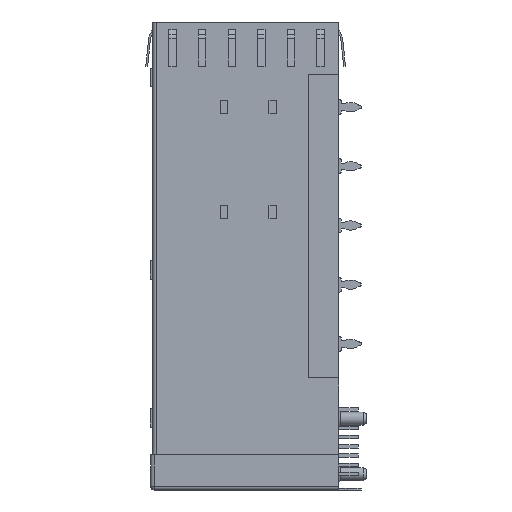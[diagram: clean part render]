
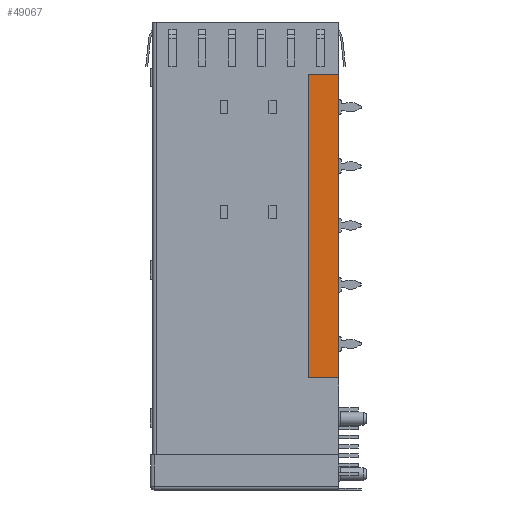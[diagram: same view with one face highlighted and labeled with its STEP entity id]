
A CAD part, left-side view. The second image highlights one B-rep face of the part: STEP entity #49067.
In plain terms, the highlighted planar face has unit normal (-1, 0, 0).
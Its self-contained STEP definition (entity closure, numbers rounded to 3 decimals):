
#983 = EDGE_LOOP ( 'NONE', ( #54840, #55551, #5235, #42316 ) ) ;
#3096 = DIRECTION ( 'NONE',  ( 0., 1., 0. ) ) ;
#5235 = ORIENTED_EDGE ( 'NONE', *, *, #46285, .F. ) ;
#9142 = VECTOR ( 'NONE', #3096, 1000. ) ;
#11380 = CARTESIAN_POINT ( 'NONE',  ( -21.75, 4.1, -7.1 ) ) ;
#17108 = VERTEX_POINT ( 'NONE', #52843 ) ;
#19954 = PLANE ( 'NONE',  #25020 ) ;
#20383 = CARTESIAN_POINT ( 'NONE',  ( -21.75, 0., -48.1 ) ) ;
#22428 = LINE ( 'NONE', #11380, #55103 ) ;
#22607 = CARTESIAN_POINT ( 'NONE',  ( -21.75, 0., -7.1 ) ) ;
#23704 = EDGE_CURVE ( 'NONE', #49821, #46486, #30894, .T. ) ;
#24415 = DIRECTION ( 'NONE',  ( 0., 0., 1. ) ) ;
#25020 = AXIS2_PLACEMENT_3D ( 'NONE', #49824, #54085, #28574 ) ;
#25494 = CARTESIAN_POINT ( 'NONE',  ( -21.75, 4.1, -7.1 ) ) ;
#28344 = CARTESIAN_POINT ( 'NONE',  ( -21.75, 4.1, -48.1 ) ) ;
#28574 = DIRECTION ( 'NONE',  ( 0., 0., 1. ) ) ;
#28967 = DIRECTION ( 'NONE',  ( 0., -1., 0. ) ) ;
#29287 = VECTOR ( 'NONE', #48182, 1000. ) ;
#30894 = LINE ( 'NONE', #54641, #50846 ) ;
#32096 = LINE ( 'NONE', #20383, #9142 ) ;
#34821 = CARTESIAN_POINT ( 'NONE',  ( -21.75, 0., -7.1 ) ) ;
#42316 = ORIENTED_EDGE ( 'NONE', *, *, #47183, .F. ) ;
#46285 = EDGE_CURVE ( 'NONE', #17108, #47882, #32096, .T. ) ;
#46486 = VERTEX_POINT ( 'NONE', #34821 ) ;
#47183 = EDGE_CURVE ( 'NONE', #46486, #17108, #53256, .T. ) ;
#47882 = VERTEX_POINT ( 'NONE', #28344 ) ;
#48182 = DIRECTION ( 'NONE',  ( 0., 0., -1. ) ) ;
#48392 = FACE_OUTER_BOUND ( 'NONE', #983, .T. ) ;
#49067 = ADVANCED_FACE ( 'NONE', ( #48392 ), #19954, .F. ) ;
#49821 = VERTEX_POINT ( 'NONE', #25494 ) ;
#49824 = CARTESIAN_POINT ( 'NONE',  ( -21.75, 0., 0. ) ) ;
#50846 = VECTOR ( 'NONE', #28967, 1000. ) ;
#52843 = CARTESIAN_POINT ( 'NONE',  ( -21.75, 0., -48.1 ) ) ;
#53256 = LINE ( 'NONE', #22607, #29287 ) ;
#54085 = DIRECTION ( 'NONE',  ( 1., 0., 0. ) ) ;
#54325 = EDGE_CURVE ( 'NONE', #47882, #49821, #22428, .T. ) ;
#54641 = CARTESIAN_POINT ( 'NONE',  ( -21.75, 0., -7.1 ) ) ;
#54840 = ORIENTED_EDGE ( 'NONE', *, *, #23704, .F. ) ;
#55103 = VECTOR ( 'NONE', #24415, 1000. ) ;
#55551 = ORIENTED_EDGE ( 'NONE', *, *, #54325, .F. ) ;
